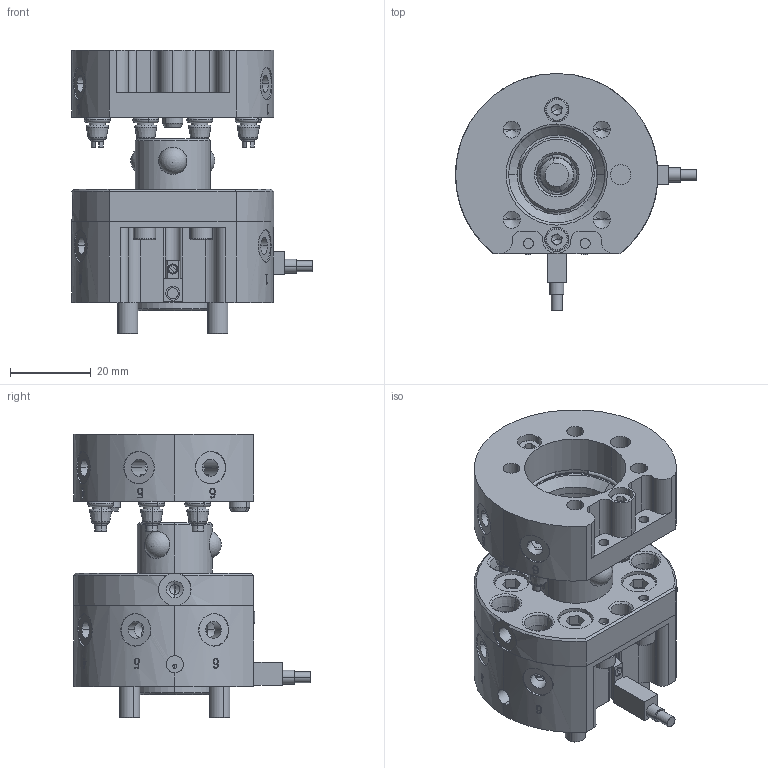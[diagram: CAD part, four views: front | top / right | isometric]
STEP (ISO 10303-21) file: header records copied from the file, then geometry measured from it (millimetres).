
FILE_DESCRIPTION (( 'STEP AP214' ), '1' );
FILE_NAME ('QCA-05R1--QCA-05G1×°Åä.STEP', '2023-12-12T05:35:52', ( '' ), ( '' ), 'SwSTEP 2.0', 'SolidWorks 2018', '' );
FILE_SCHEMA (( 'AUTOMOTIVE_DESIGN' ));
Length unit declared in the file: millimetre
Products named in the file (24): hexagon socket head cap screws gb_GB_FASTENER_SCREWS_HSHCS M3X8-N; QCSM-05R菁釱坶踡啣; QCA-05R1棠遠; 精密O型圈内径17线径1.78; QCSM-05种隊; QCSM-05笥撿耜蚾饜; 精密O型圈内径22.5线径1.0; 顶针用密封圈5.0; 1.2MM挡圈; QCA-05R1--QCA-05G1蚾饜; QCSM-05階渀; QCSM-05G菁釱; QCA-15詩⑩; hexagon socket head cap screws gb_GB_FASTENER_SCREWS_HSHCS M5X30-N; o-rings series a gb_GB-T 3452.1 10x1.8-A; 粟銅3.8; MGJ_D-F8B; QCSM-05粣裝; QCSM-05R菁釱; o-rings series a gb_GB-T 3452.1 4x1.8-A; 4.5MM钢球; QCA-5笥撿耜縐踡楊擘; hexagon socket head cap screws gb_GB_FASTENER_SCREWS_HSHCS M3X10-N; hexagon socket head cap screws gb_GB_FASTENER_SCREWS_HSHCS M3X20-N
Assembly tree (57 placements, depth 3):
  QCA-05R1--QCA-05G1蚾饜
    QCSM-05R菁釱
    QCSM-05R菁釱坶踡啣
    QCSM-05粣裝
    o-rings series a gb_GB-T 3452.1 10x1.8-A
    QCA-15詩⑩  x3
    4.5MM钢球  x6
    hexagon socket head cap screws gb_GB_FASTENER_SCREWS_HSHCS M3X8-N  x2
    hexagon socket head cap screws gb_GB_FASTENER_SCREWS_HSHCS M3X20-N
    hexagon socket head cap screws gb_GB_FASTENER_SCREWS_HSHCS M5X30-N  x4
    MGJ_D-F8B  x2
    o-rings series a gb_GB-T 3452.1 4x1.8-A  x6
    粟銅3.8  x6
    精密O型圈内径17线径1.78
    QCA-05R1棠遠
    精密O型圈内径22.5线径1.0
    QCSM-05笥撿耜蚾饜
      QCSM-05G菁釱
      QCA-5笥撿耜縐踡楊擘
      QCSM-05階渀  x6
      QCSM-05种隊  x2
      hexagon socket head cap screws gb_GB_FASTENER_SCREWS_HSHCS M3X10-N  x2
      顶针用密封圈5.0  x6
      1.2MM挡圈
Bounding box: 59.5 x 58.5 x 70.02 mm (x, y, z)
Volume: 67901.8 mm3; surface area: 44638.7 mm2
Topology: 56 solids, 56 shells, 1494 faces, 3592 edges, 2227 vertices
Faces by surface type: plane 455, cylinder 423, bspline 206, torus 204, cone 188, sphere 18
Entity records: 53834 total; most frequent: CARTESIAN_POINT 28508, ORIENTED_EDGE 4918, DIRECTION 4696, EDGE_CURVE 2459, AXIS2_PLACEMENT_3D 1948, VERTEX_POINT 1566, EDGE_LOOP 1197, CIRCLE 1027
